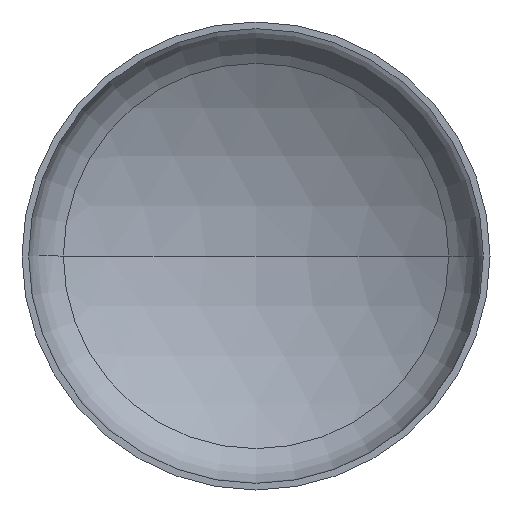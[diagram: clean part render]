
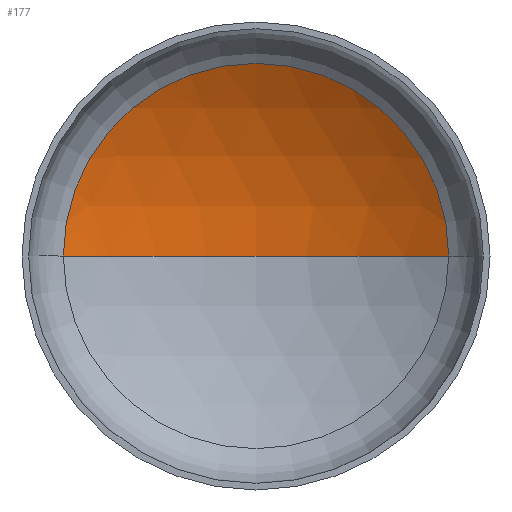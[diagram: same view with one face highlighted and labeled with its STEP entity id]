
A CAD part, front view. The second image highlights one B-rep face of the part: STEP entity #177.
In plain terms, the highlighted spherical face has radius 1520 mm.
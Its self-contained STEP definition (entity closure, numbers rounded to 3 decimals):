
#11 = EDGE_LOOP ( 'NONE', ( #99, #87, #32 ) ) ;
#27 = AXIS2_PLACEMENT_3D ( 'NONE', #254, #230, #266 ) ;
#29 = DIRECTION ( 'NONE',  ( 1., 0., 0. ) ) ;
#32 = ORIENTED_EDGE ( 'NONE', *, *, #95, .T. ) ;
#38 = AXIS2_PLACEMENT_3D ( 'NONE', #46, #40, #29 ) ;
#39 = AXIS2_PLACEMENT_3D ( 'NONE', #120, #205, #389 ) ;
#40 = DIRECTION ( 'NONE',  ( 0., 0., 1. ) ) ;
#42 = AXIS2_PLACEMENT_3D ( 'NONE', #220, #221, #200 ) ;
#46 = CARTESIAN_POINT ( 'NONE',  ( 0., -969.614, 0. ) ) ;
#55 = VERTEX_POINT ( 'NONE', #257 ) ;
#61 = CIRCLE ( 'NONE', #39, 1520. ) ;
#68 = VERTEX_POINT ( 'NONE', #282 ) ;
#87 = ORIENTED_EDGE ( 'NONE', *, *, #96, .T. ) ;
#95 = EDGE_CURVE ( 'NONE', #98, #55, #248, .T. ) ;
#96 = EDGE_CURVE ( 'NONE', #68, #98, #61, .T. ) ;
#98 = VERTEX_POINT ( 'NONE', #295 ) ;
#99 = ORIENTED_EDGE ( 'NONE', *, *, #100, .F. ) ;
#100 = EDGE_CURVE ( 'NONE', #68, #55, #365, .T. ) ;
#120 = CARTESIAN_POINT ( 'NONE',  ( 0., -969.614, 0. ) ) ;
#177 = ADVANCED_FACE ( 'NONE', ( #235 ), #306, .F. ) ;
#200 = DIRECTION ( 'NONE',  ( 1., 0., 0. ) ) ;
#205 = DIRECTION ( 'NONE',  ( 0., 0., -1. ) ) ;
#220 = CARTESIAN_POINT ( 'NONE',  ( 0., 333.649, 0. ) ) ;
#221 = DIRECTION ( 'NONE',  ( 0., -1., 0. ) ) ;
#230 = DIRECTION ( 'NONE',  ( 0., 0., -1. ) ) ;
#235 = FACE_OUTER_BOUND ( 'NONE', #11, .T. ) ;
#248 = CIRCLE ( 'NONE', #42, 782.244 ) ;
#254 = CARTESIAN_POINT ( 'NONE',  ( 0., -969.614, 0. ) ) ;
#257 = CARTESIAN_POINT ( 'NONE',  ( -782.244, 333.649, 0. ) ) ;
#266 = DIRECTION ( 'NONE',  ( -1., 0., 0. ) ) ;
#282 = CARTESIAN_POINT ( 'NONE',  ( 0., 550.386, 0. ) ) ;
#295 = CARTESIAN_POINT ( 'NONE',  ( 782.244, 333.649, 0. ) ) ;
#306 = SPHERICAL_SURFACE ( 'NONE', #27, 1520. ) ;
#365 = CIRCLE ( 'NONE', #38, 1520. ) ;
#389 = DIRECTION ( 'NONE',  ( -1., 0., 0. ) ) ;
